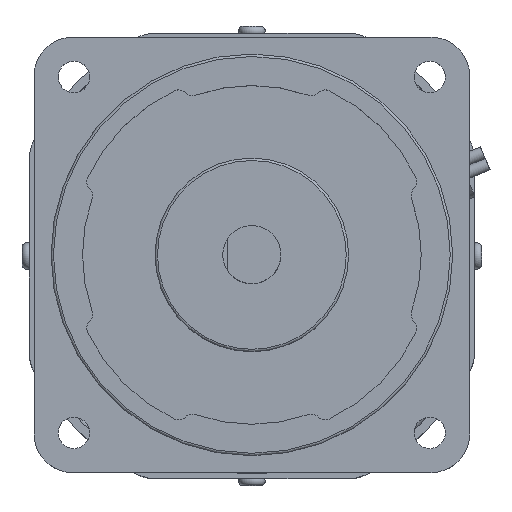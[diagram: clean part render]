
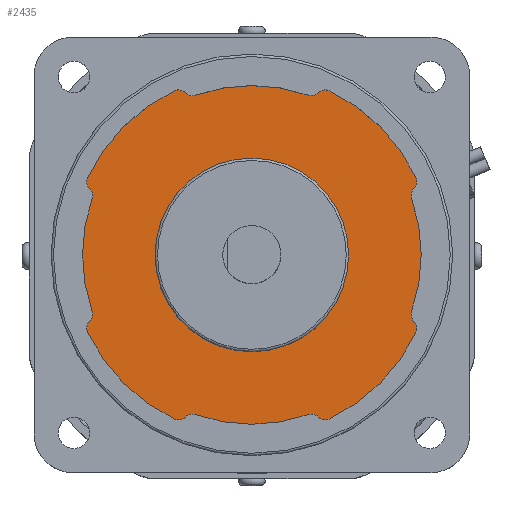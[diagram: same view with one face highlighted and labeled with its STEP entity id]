
A CAD part, top view. The second image highlights one B-rep face of the part: STEP entity #2435.
In plain terms, the highlighted planar face has unit normal (0, 0, 1).
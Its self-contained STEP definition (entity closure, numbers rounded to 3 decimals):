
#1116=CARTESIAN_POINT('',(20.0,0.,175.0));
#1117=VERTEX_POINT('',#1116);
#1118=CARTESIAN_POINT('',(0.,0.,175.0));
#1119=DIRECTION('',(0.0,0.0,-1.0));
#1120=DIRECTION('',(-1.0,0.0,0.0));
#1121=AXIS2_PLACEMENT_3D('',#1118,#1119,#1120);
#1122=CIRCLE('',#1121,20.0);
#1123=EDGE_CURVE('',#1117,#1117,#1122,.T.);
#1146=CARTESIAN_POINT('',(-13.722,-33.501,175.0));
#1147=VERTEX_POINT('',#1146);
#1163=CARTESIAN_POINT('',(-11.626,-33.013,175.0));
#1164=VERTEX_POINT('',#1163);
#1171=CARTESIAN_POINT('',(-12.291,-34.899,175.0));
#1172=DIRECTION('',(0.0,0.0,-1.0));
#1173=DIRECTION('',(-0.408,0.913,0.0));
#1174=AXIS2_PLACEMENT_3D('',#1171,#1172,#1173);
#1175=CIRCLE('',#1174,2.0);
#1176=EDGE_CURVE('',#1164,#1147,#1175,.F.);
#1196=CARTESIAN_POINT('',(11.626,-33.013,175.0));
#1197=VERTEX_POINT('',#1196);
#1204=CARTESIAN_POINT('',(0.,0.,175.0));
#1205=DIRECTION('',(0.,0.,1.0));
#1206=DIRECTION('',(-0.383,-0.924,0.));
#1207=AXIS2_PLACEMENT_3D('',#1204,#1205,#1206);
#1208=CIRCLE('',#1207,35.0);
#1209=EDGE_CURVE('',#1164,#1197,#1208,.T.);
#1219=CARTESIAN_POINT('',(13.722,-33.501,175.0));
#1220=VERTEX_POINT('',#1219);
#1229=CARTESIAN_POINT('',(12.291,-34.899,175.0));
#1230=DIRECTION('',(0.0,0.0,-1.0));
#1231=DIRECTION('',(0.408,0.913,0.0));
#1232=AXIS2_PLACEMENT_3D('',#1229,#1230,#1231);
#1233=CIRCLE('',#1232,2.0);
#1234=EDGE_CURVE('',#1220,#1197,#1233,.F.);
#1261=CARTESIAN_POINT('',(16.006,-33.913,175.0));
#1262=VERTEX_POINT('',#1261);
#1269=CARTESIAN_POINT('',(15.152,-32.104,175.0));
#1270=DIRECTION('',(0.0,0.0,1.0));
#1271=DIRECTION('',(0.715,0.699,0.0));
#1272=AXIS2_PLACEMENT_3D('',#1269,#1270,#1271);
#1273=CIRCLE('',#1272,2.);
#1274=EDGE_CURVE('',#1220,#1262,#1273,.T.);
#1285=CARTESIAN_POINT('',(33.913,-16.006,175.0));
#1286=VERTEX_POINT('',#1285);
#1295=CARTESIAN_POINT('',(0.,0.,175.0));
#1296=DIRECTION('',(0.,0.,1.0));
#1297=DIRECTION('',(0.383,-0.924,0.));
#1298=AXIS2_PLACEMENT_3D('',#1295,#1296,#1297);
#1299=CIRCLE('',#1298,37.5);
#1300=EDGE_CURVE('',#1262,#1286,#1299,.T.);
#1327=CARTESIAN_POINT('',(33.501,-13.722,175.0));
#1328=VERTEX_POINT('',#1327);
#1335=CARTESIAN_POINT('',(32.104,-15.152,175.0));
#1336=DIRECTION('',(0.0,0.0,1.0));
#1337=DIRECTION('',(-0.904,0.427,0.0));
#1338=AXIS2_PLACEMENT_3D('',#1335,#1336,#1337);
#1339=CIRCLE('',#1338,2.);
#1340=EDGE_CURVE('',#1286,#1328,#1339,.T.);
#1361=CARTESIAN_POINT('',(33.013,-11.626,175.0));
#1362=VERTEX_POINT('',#1361);
#1369=CARTESIAN_POINT('',(34.899,-12.291,175.0));
#1370=DIRECTION('',(0.0,0.0,-1.0));
#1371=DIRECTION('',(-0.913,-0.408,0.0));
#1372=AXIS2_PLACEMENT_3D('',#1369,#1370,#1371);
#1373=CIRCLE('',#1372,2.0);
#1374=EDGE_CURVE('',#1362,#1328,#1373,.F.);
#1384=CARTESIAN_POINT('',(33.013,11.626,175.0));
#1385=VERTEX_POINT('',#1384);
#1394=CARTESIAN_POINT('',(0.,0.,175.0));
#1395=DIRECTION('',(0.,0.,1.0));
#1396=DIRECTION('',(0.924,-0.383,0.));
#1397=AXIS2_PLACEMENT_3D('',#1394,#1395,#1396);
#1398=CIRCLE('',#1397,35.);
#1399=EDGE_CURVE('',#1362,#1385,#1398,.T.);
#1417=CARTESIAN_POINT('',(33.501,13.722,175.0));
#1418=VERTEX_POINT('',#1417);
#1427=CARTESIAN_POINT('',(34.899,12.291,175.0));
#1428=DIRECTION('',(0.0,0.0,-1.0));
#1429=DIRECTION('',(-0.913,0.408,0.0));
#1430=AXIS2_PLACEMENT_3D('',#1427,#1428,#1429);
#1431=CIRCLE('',#1430,2.0);
#1432=EDGE_CURVE('',#1418,#1385,#1431,.F.);
#1459=CARTESIAN_POINT('',(33.913,16.006,175.0));
#1460=VERTEX_POINT('',#1459);
#1467=CARTESIAN_POINT('',(32.104,15.152,175.0));
#1468=DIRECTION('',(0.0,0.0,1.0));
#1469=DIRECTION('',(-0.699,0.715,0.0));
#1470=AXIS2_PLACEMENT_3D('',#1467,#1468,#1469);
#1471=CIRCLE('',#1470,2.);
#1472=EDGE_CURVE('',#1418,#1460,#1471,.T.);
#1483=CARTESIAN_POINT('',(16.006,33.913,175.0));
#1484=VERTEX_POINT('',#1483);
#1493=CARTESIAN_POINT('',(0.,0.,175.0));
#1494=DIRECTION('',(0.,0.,1.0));
#1495=DIRECTION('',(0.924,0.383,0.));
#1496=AXIS2_PLACEMENT_3D('',#1493,#1494,#1495);
#1497=CIRCLE('',#1496,37.5);
#1498=EDGE_CURVE('',#1460,#1484,#1497,.T.);
#1525=CARTESIAN_POINT('',(13.722,33.501,175.0));
#1526=VERTEX_POINT('',#1525);
#1533=CARTESIAN_POINT('',(15.152,32.104,175.0));
#1534=DIRECTION('',(0.0,0.0,1.0));
#1535=DIRECTION('',(-0.427,-0.904,0.0));
#1536=AXIS2_PLACEMENT_3D('',#1533,#1534,#1535);
#1537=CIRCLE('',#1536,2.);
#1538=EDGE_CURVE('',#1484,#1526,#1537,.T.);
#1559=CARTESIAN_POINT('',(11.626,33.013,175.0));
#1560=VERTEX_POINT('',#1559);
#1567=CARTESIAN_POINT('',(12.291,34.899,175.0));
#1568=DIRECTION('',(0.0,0.0,-1.0));
#1569=DIRECTION('',(0.408,-0.913,0.0));
#1570=AXIS2_PLACEMENT_3D('',#1567,#1568,#1569);
#1571=CIRCLE('',#1570,2.0);
#1572=EDGE_CURVE('',#1560,#1526,#1571,.F.);
#1582=CARTESIAN_POINT('',(-11.626,33.013,175.0));
#1583=VERTEX_POINT('',#1582);
#1592=CARTESIAN_POINT('',(0.,0.,175.0));
#1593=DIRECTION('',(0.,0.,1.0));
#1594=DIRECTION('',(0.383,0.924,0.));
#1595=AXIS2_PLACEMENT_3D('',#1592,#1593,#1594);
#1596=CIRCLE('',#1595,35.0);
#1597=EDGE_CURVE('',#1560,#1583,#1596,.T.);
#1615=CARTESIAN_POINT('',(-13.722,33.501,175.0));
#1616=VERTEX_POINT('',#1615);
#1625=CARTESIAN_POINT('',(-12.291,34.899,175.0));
#1626=DIRECTION('',(0.0,0.0,-1.0));
#1627=DIRECTION('',(-0.408,-0.913,0.0));
#1628=AXIS2_PLACEMENT_3D('',#1625,#1626,#1627);
#1629=CIRCLE('',#1628,2.0);
#1630=EDGE_CURVE('',#1616,#1583,#1629,.F.);
#1657=CARTESIAN_POINT('',(-16.006,33.913,175.0));
#1658=VERTEX_POINT('',#1657);
#1665=CARTESIAN_POINT('',(-15.152,32.104,175.0));
#1666=DIRECTION('',(0.0,0.0,1.0));
#1667=DIRECTION('',(-0.715,-0.699,0.0));
#1668=AXIS2_PLACEMENT_3D('',#1665,#1666,#1667);
#1669=CIRCLE('',#1668,2.);
#1670=EDGE_CURVE('',#1616,#1658,#1669,.T.);
#1691=CARTESIAN_POINT('',(-33.913,16.006,175.0));
#1692=VERTEX_POINT('',#1691);
#1699=CARTESIAN_POINT('',(0.,0.,175.0));
#1700=DIRECTION('',(0.,0.,1.0));
#1701=DIRECTION('',(-0.383,0.924,0.));
#1702=AXIS2_PLACEMENT_3D('',#1699,#1700,#1701);
#1703=CIRCLE('',#1702,37.5);
#1704=EDGE_CURVE('',#1658,#1692,#1703,.T.);
#1723=CARTESIAN_POINT('',(-33.501,13.722,175.0));
#1724=VERTEX_POINT('',#1723);
#1731=CARTESIAN_POINT('',(-32.104,15.152,175.0));
#1732=DIRECTION('',(0.0,0.0,1.0));
#1733=DIRECTION('',(0.904,-0.427,0.0));
#1734=AXIS2_PLACEMENT_3D('',#1731,#1732,#1733);
#1735=CIRCLE('',#1734,2.);
#1736=EDGE_CURVE('',#1692,#1724,#1735,.T.);
#1757=CARTESIAN_POINT('',(-33.013,11.626,175.0));
#1758=VERTEX_POINT('',#1757);
#1765=CARTESIAN_POINT('',(-34.899,12.291,175.0));
#1766=DIRECTION('',(0.0,0.0,-1.0));
#1767=DIRECTION('',(0.913,0.408,0.0));
#1768=AXIS2_PLACEMENT_3D('',#1765,#1766,#1767);
#1769=CIRCLE('',#1768,2.0);
#1770=EDGE_CURVE('',#1758,#1724,#1769,.F.);
#1780=CARTESIAN_POINT('',(-33.013,-11.626,175.0));
#1781=VERTEX_POINT('',#1780);
#1790=CARTESIAN_POINT('',(0.,0.,175.0));
#1791=DIRECTION('',(0.,0.,1.0));
#1792=DIRECTION('',(-0.924,0.383,0.));
#1793=AXIS2_PLACEMENT_3D('',#1790,#1791,#1792);
#1794=CIRCLE('',#1793,35.0);
#1795=EDGE_CURVE('',#1758,#1781,#1794,.T.);
#1813=CARTESIAN_POINT('',(-33.501,-13.722,175.0));
#1814=VERTEX_POINT('',#1813);
#1823=CARTESIAN_POINT('',(-34.899,-12.291,175.0));
#1824=DIRECTION('',(0.0,0.0,-1.0));
#1825=DIRECTION('',(0.913,-0.408,0.0));
#1826=AXIS2_PLACEMENT_3D('',#1823,#1824,#1825);
#1827=CIRCLE('',#1826,2.0);
#1828=EDGE_CURVE('',#1814,#1781,#1827,.F.);
#1855=CARTESIAN_POINT('',(-33.913,-16.006,175.0));
#1856=VERTEX_POINT('',#1855);
#1863=CARTESIAN_POINT('',(-32.104,-15.152,175.0));
#1864=DIRECTION('',(0.0,0.0,1.0));
#1865=DIRECTION('',(0.699,-0.715,0.0));
#1866=AXIS2_PLACEMENT_3D('',#1863,#1864,#1865);
#1867=CIRCLE('',#1866,2.);
#1868=EDGE_CURVE('',#1814,#1856,#1867,.T.);
#1879=CARTESIAN_POINT('',(-16.006,-33.913,175.0));
#1880=VERTEX_POINT('',#1879);
#1889=CARTESIAN_POINT('',(0.,0.,175.0));
#1890=DIRECTION('',(0.,0.,1.0));
#1891=DIRECTION('',(-0.924,-0.383,0.));
#1892=AXIS2_PLACEMENT_3D('',#1889,#1890,#1891);
#1893=CIRCLE('',#1892,37.5);
#1894=EDGE_CURVE('',#1856,#1880,#1893,.T.);
#1920=CARTESIAN_POINT('',(-15.152,-32.104,175.0));
#1921=DIRECTION('',(0.0,0.0,1.0));
#1922=DIRECTION('',(0.427,0.904,0.0));
#1923=AXIS2_PLACEMENT_3D('',#1920,#1921,#1922);
#1924=CIRCLE('',#1923,2.);
#1925=EDGE_CURVE('',#1880,#1147,#1924,.T.);
#2401=CARTESIAN_POINT('',(0.,0.,175.0));
#2402=DIRECTION('',(0.0,0.0,1.0));
#2403=DIRECTION('',(1.0,0.0,0.0));
#2404=AXIS2_PLACEMENT_3D('',#2401,#2402,#2403);
#2405=PLANE('',#2404);
#2406=ORIENTED_EDGE('',*,*,#1925,.T.);
#2407=ORIENTED_EDGE('',*,*,#1176,.F.);
#2408=ORIENTED_EDGE('',*,*,#1209,.T.);
#2409=ORIENTED_EDGE('',*,*,#1234,.F.);
#2410=ORIENTED_EDGE('',*,*,#1274,.T.);
#2411=ORIENTED_EDGE('',*,*,#1300,.T.);
#2412=ORIENTED_EDGE('',*,*,#1340,.T.);
#2413=ORIENTED_EDGE('',*,*,#1374,.F.);
#2414=ORIENTED_EDGE('',*,*,#1399,.T.);
#2415=ORIENTED_EDGE('',*,*,#1432,.F.);
#2416=ORIENTED_EDGE('',*,*,#1472,.T.);
#2417=ORIENTED_EDGE('',*,*,#1498,.T.);
#2418=ORIENTED_EDGE('',*,*,#1538,.T.);
#2419=ORIENTED_EDGE('',*,*,#1572,.F.);
#2420=ORIENTED_EDGE('',*,*,#1597,.T.);
#2421=ORIENTED_EDGE('',*,*,#1630,.F.);
#2422=ORIENTED_EDGE('',*,*,#1670,.T.);
#2423=ORIENTED_EDGE('',*,*,#1704,.T.);
#2424=ORIENTED_EDGE('',*,*,#1736,.T.);
#2425=ORIENTED_EDGE('',*,*,#1770,.F.);
#2426=ORIENTED_EDGE('',*,*,#1795,.T.);
#2427=ORIENTED_EDGE('',*,*,#1828,.F.);
#2428=ORIENTED_EDGE('',*,*,#1868,.T.);
#2429=ORIENTED_EDGE('',*,*,#1894,.T.);
#2430=EDGE_LOOP('',(#2406,#2407,#2408,#2409,#2410,#2411,#2412,#2413,#2414,#2415,#2416,#2417,#2418,#2419,#2420,#2421,#2422,#2423,#2424,#2425,#2426,#2427,#2428,#2429));
#2431=FACE_OUTER_BOUND('',#2430,.T.);
#2432=ORIENTED_EDGE('',*,*,#1123,.T.);
#2433=EDGE_LOOP('',(#2432));
#2434=FACE_BOUND('',#2433,.T.);
#2435=ADVANCED_FACE('',(#2431,#2434),#2405,.T.);
